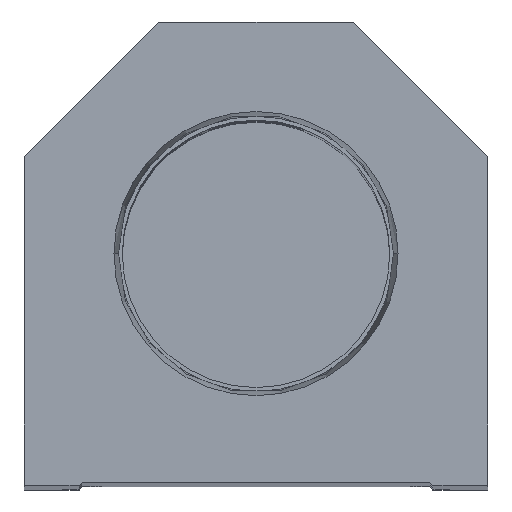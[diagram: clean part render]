
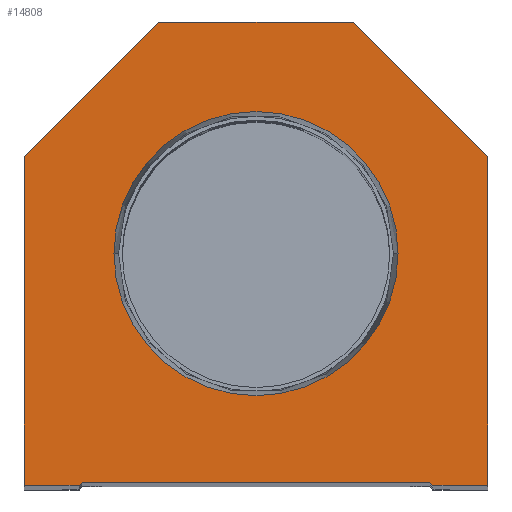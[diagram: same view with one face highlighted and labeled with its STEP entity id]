
A CAD part, top view. The second image highlights one B-rep face of the part: STEP entity #14808.
In plain terms, the highlighted planar face has unit normal (0, 0, 1).
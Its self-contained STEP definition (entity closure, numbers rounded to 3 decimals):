
#216 = VECTOR ( 'NONE', #7053, 1000. ) ;
#377 = ORIENTED_EDGE ( 'NONE', *, *, #15335, .T. ) ;
#486 = DIRECTION ( 'NONE',  ( -0.707, -0.707, 0. ) ) ;
#779 = ORIENTED_EDGE ( 'NONE', *, *, #22722, .T. ) ;
#826 = DIRECTION ( 'NONE',  ( 0., 0., 1. ) ) ;
#951 = CARTESIAN_POINT ( 'NONE',  ( -16., 76.2, 0. ) ) ;
#1512 = EDGE_CURVE ( 'NONE', #11077, #8278, #16209, .T. ) ;
#1692 = EDGE_CURVE ( 'NONE', #21423, #21693, #23616, .T. ) ;
#2381 = LINE ( 'NONE', #8060, #11991 ) ;
#2579 = ORIENTED_EDGE ( 'NONE', *, *, #1692, .F. ) ;
#2686 = ORIENTED_EDGE ( 'NONE', *, *, #11583, .T. ) ;
#2824 = VECTOR ( 'NONE', #6637, 1000. ) ;
#2852 = CARTESIAN_POINT ( 'NONE',  ( 16., 76.2, 0. ) ) ;
#3546 = VERTEX_POINT ( 'NONE', #24302 ) ;
#3678 = VERTEX_POINT ( 'NONE', #951 ) ;
#4172 = EDGE_CURVE ( 'NONE', #3546, #11077, #9535, .T. ) ;
#4244 = ORIENTED_EDGE ( 'NONE', *, *, #1512, .T. ) ;
#4647 = CARTESIAN_POINT ( 'NONE',  ( 23.374, 38.1, 0. ) ) ;
#4675 = CARTESIAN_POINT ( 'NONE',  ( -38.1, 0., 0. ) ) ;
#5150 = CARTESIAN_POINT ( 'NONE',  ( 0., 38.1, 0. ) ) ;
#5352 = EDGE_CURVE ( 'NONE', #17168, #15744, #23027, .T. ) ;
#5655 = EDGE_CURVE ( 'NONE', #8278, #17069, #2381, .T. ) ;
#5916 = CARTESIAN_POINT ( 'NONE',  ( -38.1, 54.1, 0. ) ) ;
#5961 = DIRECTION ( 'NONE',  ( 0.707, -0.707, 0. ) ) ;
#6247 = CARTESIAN_POINT ( 'NONE',  ( -38.1, 0., 0. ) ) ;
#6540 = LINE ( 'NONE', #9531, #11894 ) ;
#6571 = LINE ( 'NONE', #23843, #216 ) ;
#6637 = DIRECTION ( 'NONE',  ( 1., 0., 0. ) ) ;
#7013 = CARTESIAN_POINT ( 'NONE',  ( 16., 76.2, 0. ) ) ;
#7053 = DIRECTION ( 'NONE',  ( 1., 0., 0. ) ) ;
#7168 = AXIS2_PLACEMENT_3D ( 'NONE', #5150, #7479, #12640 ) ;
#7479 = DIRECTION ( 'NONE',  ( 0., 0., 1. ) ) ;
#7524 = VECTOR ( 'NONE', #13281, 1000. ) ;
#8060 = CARTESIAN_POINT ( 'NONE',  ( 38.1, 0., 0. ) ) ;
#8199 = VECTOR ( 'NONE', #11585, 1000. ) ;
#8278 = VERTEX_POINT ( 'NONE', #17329 ) ;
#9068 = CIRCLE ( 'NONE', #16100, 23.374 ) ;
#9531 = CARTESIAN_POINT ( 'NONE',  ( -28.6, 0., 0. ) ) ;
#9535 = LINE ( 'NONE', #15048, #14029 ) ;
#9568 = ORIENTED_EDGE ( 'NONE', *, *, #11033, .T. ) ;
#10455 = CARTESIAN_POINT ( 'NONE',  ( 0., 0., 0. ) ) ;
#10565 = VERTEX_POINT ( 'NONE', #20120 ) ;
#10614 = EDGE_LOOP ( 'NONE', ( #2579, #23034 ) ) ;
#11033 = EDGE_CURVE ( 'NONE', #3678, #17168, #22687, .T. ) ;
#11050 = EDGE_CURVE ( 'NONE', #17069, #16919, #23307, .T. ) ;
#11077 = VERTEX_POINT ( 'NONE', #22595 ) ;
#11583 = EDGE_CURVE ( 'NONE', #15744, #12575, #6540, .T. ) ;
#11585 = DIRECTION ( 'NONE',  ( 0.707, 0.707, 0. ) ) ;
#11778 = ORIENTED_EDGE ( 'NONE', *, *, #5655, .T. ) ;
#11894 = VECTOR ( 'NONE', #12068, 1000. ) ;
#11991 = VECTOR ( 'NONE', #23242, 1000. ) ;
#12068 = DIRECTION ( 'NONE',  ( 1., 0., 0. ) ) ;
#12239 = CARTESIAN_POINT ( 'NONE',  ( -23.374, 38.1, 0. ) ) ;
#12295 = FACE_OUTER_BOUND ( 'NONE', #16828, .T. ) ;
#12575 = VERTEX_POINT ( 'NONE', #19789 ) ;
#12640 = DIRECTION ( 'NONE',  ( 1., 0., 0. ) ) ;
#12781 = LINE ( 'NONE', #7013, #15826 ) ;
#13232 = AXIS2_PLACEMENT_3D ( 'NONE', #10455, #826, #17911 ) ;
#13281 = DIRECTION ( 'NONE',  ( -0.707, 0.707, 0. ) ) ;
#14029 = VECTOR ( 'NONE', #5961, 1000. ) ;
#14259 = ORIENTED_EDGE ( 'NONE', *, *, #18524, .T. ) ;
#14492 = CARTESIAN_POINT ( 'NONE',  ( 0., 38.1, 0. ) ) ;
#14808 = ADVANCED_FACE ( 'NONE', ( #19639, #12295 ), #19751, .T. ) ;
#15048 = CARTESIAN_POINT ( 'NONE',  ( 14.55, 14.55, 0. ) ) ;
#15190 = ORIENTED_EDGE ( 'NONE', *, *, #4172, .T. ) ;
#15335 = EDGE_CURVE ( 'NONE', #12575, #10565, #18802, .T. ) ;
#15521 = CARTESIAN_POINT ( 'NONE',  ( -14.55, 14.55, 0. ) ) ;
#15744 = VERTEX_POINT ( 'NONE', #4675 ) ;
#15825 = DIRECTION ( 'NONE',  ( 0., -1., 0. ) ) ;
#15826 = VECTOR ( 'NONE', #21958, 1000. ) ;
#16100 = AXIS2_PLACEMENT_3D ( 'NONE', #14492, #23810, #21724 ) ;
#16209 = LINE ( 'NONE', #23412, #2824 ) ;
#16290 = VECTOR ( 'NONE', #15825, 1000. ) ;
#16577 = EDGE_CURVE ( 'NONE', #21693, #21423, #9068, .T. ) ;
#16619 = CARTESIAN_POINT ( 'NONE',  ( 38.1, 54.1, 0. ) ) ;
#16828 = EDGE_LOOP ( 'NONE', ( #2686, #377, #779, #15190, #4244, #11778, #19051, #14259, #9568, #23694 ) ) ;
#16919 = VERTEX_POINT ( 'NONE', #2852 ) ;
#17069 = VERTEX_POINT ( 'NONE', #16619 ) ;
#17168 = VERTEX_POINT ( 'NONE', #19163 ) ;
#17329 = CARTESIAN_POINT ( 'NONE',  ( 38.1, 0., 0. ) ) ;
#17911 = DIRECTION ( 'NONE',  ( 1., 0., 0. ) ) ;
#18524 = EDGE_CURVE ( 'NONE', #16919, #3678, #12781, .T. ) ;
#18802 = LINE ( 'NONE', #15521, #8199 ) ;
#19051 = ORIENTED_EDGE ( 'NONE', *, *, #11050, .T. ) ;
#19163 = CARTESIAN_POINT ( 'NONE',  ( -38.1, 54.1, 0. ) ) ;
#19639 = FACE_BOUND ( 'NONE', #10614, .T. ) ;
#19751 = PLANE ( 'NONE',  #13232 ) ;
#19789 = CARTESIAN_POINT ( 'NONE',  ( -29.1, 0., 0. ) ) ;
#20053 = VECTOR ( 'NONE', #486, 1000. ) ;
#20120 = CARTESIAN_POINT ( 'NONE',  ( -28.6, 0.5, 0. ) ) ;
#20523 = CARTESIAN_POINT ( 'NONE',  ( 38.1, 54.1, 0. ) ) ;
#21423 = VERTEX_POINT ( 'NONE', #4647 ) ;
#21693 = VERTEX_POINT ( 'NONE', #12239 ) ;
#21724 = DIRECTION ( 'NONE',  ( 1., 0., 0. ) ) ;
#21958 = DIRECTION ( 'NONE',  ( -1., 0., 0. ) ) ;
#22595 = CARTESIAN_POINT ( 'NONE',  ( 29.1, 0., 0. ) ) ;
#22687 = LINE ( 'NONE', #5916, #20053 ) ;
#22722 = EDGE_CURVE ( 'NONE', #10565, #3546, #6571, .T. ) ;
#23027 = LINE ( 'NONE', #6247, #16290 ) ;
#23034 = ORIENTED_EDGE ( 'NONE', *, *, #16577, .F. ) ;
#23242 = DIRECTION ( 'NONE',  ( 0., 1., 0. ) ) ;
#23307 = LINE ( 'NONE', #20523, #7524 ) ;
#23412 = CARTESIAN_POINT ( 'NONE',  ( 28.6, 0., 0. ) ) ;
#23616 = CIRCLE ( 'NONE', #7168, 23.374 ) ;
#23694 = ORIENTED_EDGE ( 'NONE', *, *, #5352, .T. ) ;
#23810 = DIRECTION ( 'NONE',  ( 0., 0., 1. ) ) ;
#23843 = CARTESIAN_POINT ( 'NONE',  ( -28.6, 0.5, 0. ) ) ;
#24302 = CARTESIAN_POINT ( 'NONE',  ( 28.6, 0.5, 0. ) ) ;
